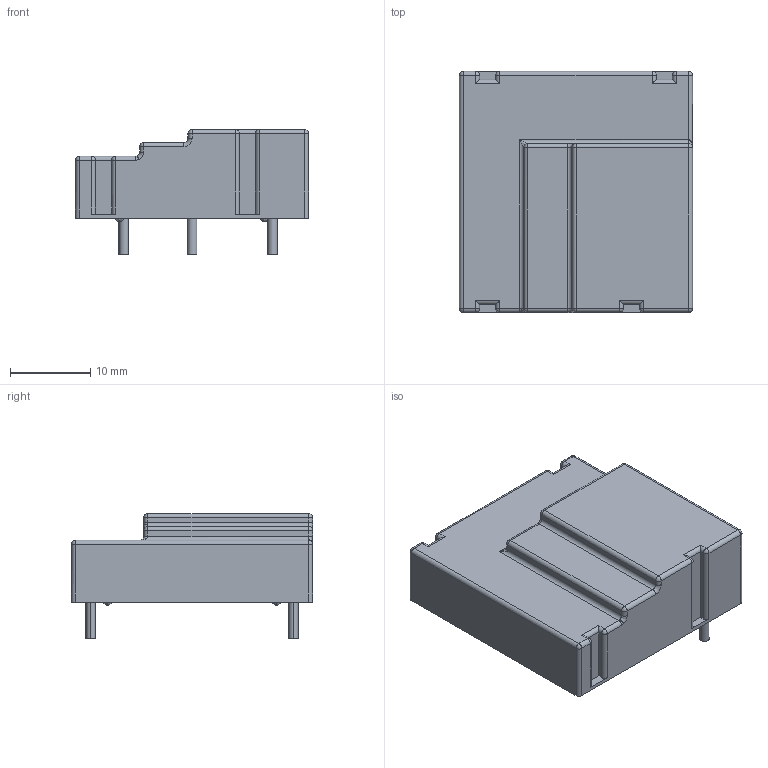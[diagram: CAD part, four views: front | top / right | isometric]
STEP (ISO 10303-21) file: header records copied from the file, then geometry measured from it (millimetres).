
FILE_DESCRIPTION((''),'2;1');
FILE_NAME('TFMOV25SL-101-20200811','2020-08-11T',('SET-01114'),(''),'PRO/ENGINEER BY PARAMETRIC TECHNOLOGY CORPORATION, 2012310','PRO/ENGINEER BY PARAMETRIC TECHNOLOGY CORPORATION, 2012310','');
FILE_SCHEMA(('CONFIG_CONTROL_DESIGN','SHAPE_APPEARANCE_LAYERS_GROUPS'));
Length unit declared in the file: millimetre
Products named in the file (1): TFMOV25SL-101-20200811
Bounding box: 29 x 30 x 15.5 mm (x, y, z)
Volume: 2317.4 mm3; surface area: 5365 mm2
Topology: 1 solids, 2 shells, 209 faces, 609 edges, 381 vertices
Faces by surface type: cylinder 91, plane 69, sphere 29, bspline 13, torus 7
Entity records: 9015 total; most frequent: CARTESIAN_POINT 1770, DIRECTION 1183, ORIENTED_EDGE 1154, PRESENTATION_STYLE_ASSIGNMENT 578, STYLED_ITEM 578, CURVE_STYLE 577, EDGE_CURVE 577, AXIS2_PLACEMENT_3D 459
